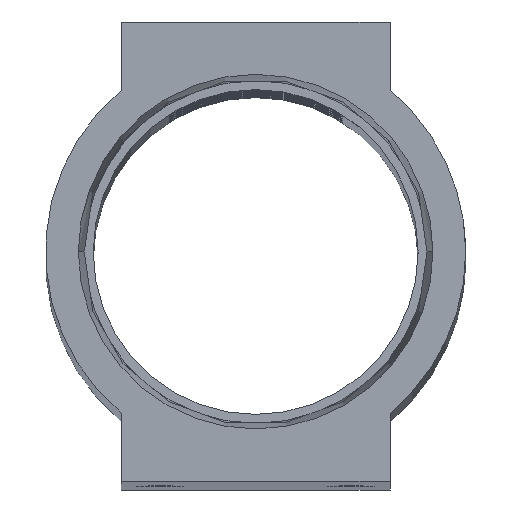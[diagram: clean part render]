
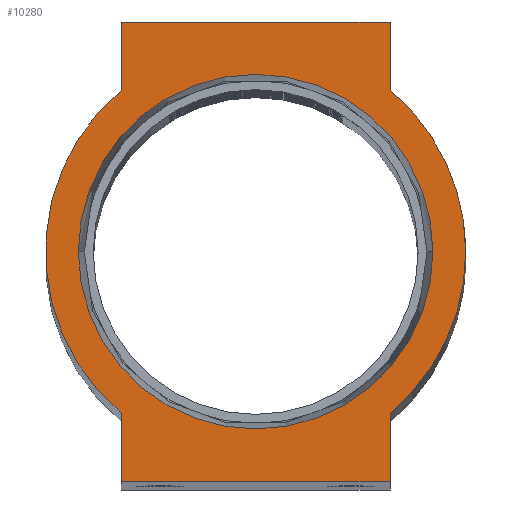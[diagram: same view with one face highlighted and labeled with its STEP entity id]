
A CAD part, top view. The second image highlights one B-rep face of the part: STEP entity #10280.
In plain terms, the highlighted planar face has unit normal (0, 0, 1).
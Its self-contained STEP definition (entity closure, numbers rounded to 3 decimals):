
#155 = CARTESIAN_POINT ( 'NONE',  ( 18.75, 0., 0. ) ) ;
#253 = LINE ( 'NONE', #10728, #9661 ) ;
#731 = EDGE_LOOP ( 'NONE', ( #6560, #3390 ) ) ;
#755 = ORIENTED_EDGE ( 'NONE', *, *, #9949, .T. ) ;
#853 = CARTESIAN_POINT ( 'NONE',  ( 12., -20.5, 0. ) ) ;
#956 = EDGE_LOOP ( 'NONE', ( #11803, #8927, #1116, #8111, #9645, #13100, #7510, #755, #5214 ) ) ;
#1049 = DIRECTION ( 'NONE',  ( 0., 0., 1. ) ) ;
#1098 = CARTESIAN_POINT ( 'NONE',  ( -12., 20.5, 0. ) ) ;
#1116 = ORIENTED_EDGE ( 'NONE', *, *, #6098, .T. ) ;
#1147 = CARTESIAN_POINT ( 'NONE',  ( -12., -20.5, 0. ) ) ;
#1484 = CARTESIAN_POINT ( 'NONE',  ( 0., 0., 0. ) ) ;
#1655 = CARTESIAN_POINT ( 'NONE',  ( -12., 20.5, 0. ) ) ;
#1667 = VERTEX_POINT ( 'NONE', #853 ) ;
#1723 = VERTEX_POINT ( 'NONE', #5365 ) ;
#1788 = DIRECTION ( 'NONE',  ( 0., 0., 1. ) ) ;
#2068 = DIRECTION ( 'NONE',  ( 0., 0., 1. ) ) ;
#2217 = EDGE_CURVE ( 'NONE', #10536, #11755, #5321, .T. ) ;
#2237 = DIRECTION ( 'NONE',  ( 0., 1., 0. ) ) ;
#2268 = CARTESIAN_POINT ( 'NONE',  ( 0., 0., 0. ) ) ;
#2749 = CIRCLE ( 'NONE', #4281, 15.827 ) ;
#2840 = DIRECTION ( 'NONE',  ( 0., 0., 1. ) ) ;
#2865 = VERTEX_POINT ( 'NONE', #1098 ) ;
#3203 = LINE ( 'NONE', #7365, #5714 ) ;
#3256 = EDGE_CURVE ( 'NONE', #8856, #9745, #253, .T. ) ;
#3390 = ORIENTED_EDGE ( 'NONE', *, *, #4957, .F. ) ;
#3590 = AXIS2_PLACEMENT_3D ( 'NONE', #1484, #10800, #11087 ) ;
#3802 = PLANE ( 'NONE',  #5105 ) ;
#3960 = CARTESIAN_POINT ( 'NONE',  ( -12., -20.5, 0. ) ) ;
#3979 = VECTOR ( 'NONE', #12612, 1000. ) ;
#4226 = AXIS2_PLACEMENT_3D ( 'NONE', #8840, #13051, #12082 ) ;
#4281 = AXIS2_PLACEMENT_3D ( 'NONE', #10639, #2068, #11405 ) ;
#4345 = DIRECTION ( 'NONE',  ( 1., 0., 0. ) ) ;
#4444 = DIRECTION ( 'NONE',  ( 0., 1., 0. ) ) ;
#4624 = VERTEX_POINT ( 'NONE', #12025 ) ;
#4675 = EDGE_CURVE ( 'NONE', #1723, #10536, #11448, .T. ) ;
#4843 = FACE_OUTER_BOUND ( 'NONE', #956, .T. ) ;
#4957 = EDGE_CURVE ( 'NONE', #10427, #8061, #8825, .T. ) ;
#4969 = CARTESIAN_POINT ( 'NONE',  ( 15.827, 0., 0. ) ) ;
#5105 = AXIS2_PLACEMENT_3D ( 'NONE', #12254, #2840, #7018 ) ;
#5214 = ORIENTED_EDGE ( 'NONE', *, *, #9692, .T. ) ;
#5321 = LINE ( 'NONE', #1147, #3979 ) ;
#5365 = CARTESIAN_POINT ( 'NONE',  ( -12., 14.407, 0. ) ) ;
#5408 = LINE ( 'NONE', #9603, #7541 ) ;
#5539 = VECTOR ( 'NONE', #10025, 1000. ) ;
#5661 = EDGE_CURVE ( 'NONE', #8061, #10427, #2749, .T. ) ;
#5714 = VECTOR ( 'NONE', #2237, 1000. ) ;
#5979 = CARTESIAN_POINT ( 'NONE',  ( 12., 20.5, 0. ) ) ;
#6098 = EDGE_CURVE ( 'NONE', #2865, #1723, #5408, .T. ) ;
#6463 = LINE ( 'NONE', #8444, #7582 ) ;
#6560 = ORIENTED_EDGE ( 'NONE', *, *, #5661, .F. ) ;
#6888 = EDGE_CURVE ( 'NONE', #1667, #4624, #3203, .T. ) ;
#6937 = DIRECTION ( 'NONE',  ( 1., 0., 0. ) ) ;
#7004 = CARTESIAN_POINT ( 'NONE',  ( 0., 0., 0. ) ) ;
#7018 = DIRECTION ( 'NONE',  ( 1., 0., 0. ) ) ;
#7365 = CARTESIAN_POINT ( 'NONE',  ( 12., -20.5, 0. ) ) ;
#7400 = DIRECTION ( 'NONE',  ( 1., 0., 0. ) ) ;
#7510 = ORIENTED_EDGE ( 'NONE', *, *, #6888, .T. ) ;
#7541 = VECTOR ( 'NONE', #11948, 1000. ) ;
#7582 = VECTOR ( 'NONE', #7400, 1000. ) ;
#8061 = VERTEX_POINT ( 'NONE', #4969 ) ;
#8111 = ORIENTED_EDGE ( 'NONE', *, *, #4675, .T. ) ;
#8444 = CARTESIAN_POINT ( 'NONE',  ( -12., -20.5, 0. ) ) ;
#8707 = CARTESIAN_POINT ( 'NONE',  ( -15.827, 0., 0. ) ) ;
#8825 = CIRCLE ( 'NONE', #9937, 15.827 ) ;
#8840 = CARTESIAN_POINT ( 'NONE',  ( 0., 0., 0. ) ) ;
#8856 = VERTEX_POINT ( 'NONE', #12449 ) ;
#8927 = ORIENTED_EDGE ( 'NONE', *, *, #9782, .T. ) ;
#9055 = CIRCLE ( 'NONE', #3590, 18.75 ) ;
#9133 = CARTESIAN_POINT ( 'NONE',  ( -12., -14.407, 0. ) ) ;
#9603 = CARTESIAN_POINT ( 'NONE',  ( -12., 20.5, 0. ) ) ;
#9645 = ORIENTED_EDGE ( 'NONE', *, *, #2217, .T. ) ;
#9661 = VECTOR ( 'NONE', #4444, 1000. ) ;
#9692 = EDGE_CURVE ( 'NONE', #12278, #8856, #11470, .T. ) ;
#9745 = VERTEX_POINT ( 'NONE', #5979 ) ;
#9782 = EDGE_CURVE ( 'NONE', #9745, #2865, #11050, .T. ) ;
#9937 = AXIS2_PLACEMENT_3D ( 'NONE', #2268, #1049, #4345 ) ;
#9949 = EDGE_CURVE ( 'NONE', #4624, #12278, #9055, .T. ) ;
#10025 = DIRECTION ( 'NONE',  ( -1., 0., 0. ) ) ;
#10164 = AXIS2_PLACEMENT_3D ( 'NONE', #7004, #1788, #6937 ) ;
#10280 = ADVANCED_FACE ( 'NONE', ( #10376, #4843 ), #3802, .T. ) ;
#10376 = FACE_BOUND ( 'NONE', #731, .T. ) ;
#10427 = VERTEX_POINT ( 'NONE', #8707 ) ;
#10536 = VERTEX_POINT ( 'NONE', #9133 ) ;
#10639 = CARTESIAN_POINT ( 'NONE',  ( 0., 0., 0. ) ) ;
#10728 = CARTESIAN_POINT ( 'NONE',  ( 12., 20.5, 0. ) ) ;
#10800 = DIRECTION ( 'NONE',  ( 0., 0., 1. ) ) ;
#11050 = LINE ( 'NONE', #1655, #5539 ) ;
#11087 = DIRECTION ( 'NONE',  ( 1., 0., 0. ) ) ;
#11159 = EDGE_CURVE ( 'NONE', #11755, #1667, #6463, .T. ) ;
#11405 = DIRECTION ( 'NONE',  ( 1., 0., 0. ) ) ;
#11448 = CIRCLE ( 'NONE', #4226, 18.75 ) ;
#11470 = CIRCLE ( 'NONE', #10164, 18.75 ) ;
#11755 = VERTEX_POINT ( 'NONE', #3960 ) ;
#11803 = ORIENTED_EDGE ( 'NONE', *, *, #3256, .T. ) ;
#11948 = DIRECTION ( 'NONE',  ( 0., -1., 0. ) ) ;
#12025 = CARTESIAN_POINT ( 'NONE',  ( 12., -14.407, 0. ) ) ;
#12082 = DIRECTION ( 'NONE',  ( 1., 0., 0. ) ) ;
#12254 = CARTESIAN_POINT ( 'NONE',  ( 0., 0., 0. ) ) ;
#12278 = VERTEX_POINT ( 'NONE', #155 ) ;
#12449 = CARTESIAN_POINT ( 'NONE',  ( 12., 14.407, 0. ) ) ;
#12612 = DIRECTION ( 'NONE',  ( 0., -1., 0. ) ) ;
#13051 = DIRECTION ( 'NONE',  ( 0., 0., 1. ) ) ;
#13100 = ORIENTED_EDGE ( 'NONE', *, *, #11159, .T. ) ;
